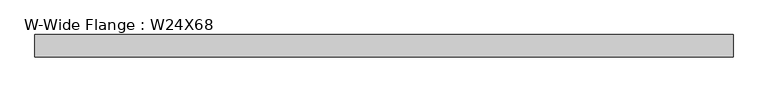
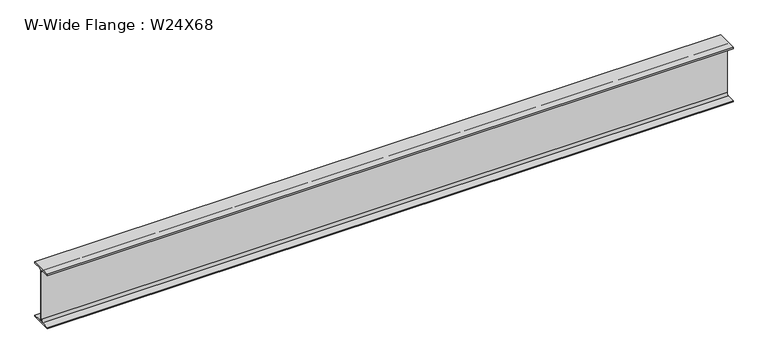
"""IFC4 building model written with IfcOpenShell, lengths in millimetres: beam geometry, W-Wide Flange : W24X68."""

from ifc_helpers import new_model, si_unit, point, frame, frame_2d, origin, place, context, project, spatial, polyline, circle_curve, trimmed, segment, composite_curve, outline, extrude, source, transform, mapped, element, save


def w_wide_flange_w24x68_2037567b(model_context):
    return source(origin(), model_context, "Body", "SweptSolid", [
        extrude(outline(composite_curve([segment(polyline([(113.919, -286.131), (113.919, -300.99), (-113.919, -300.99), (-113.919, -286.131), (-28.5115, -286.131)]), True, "CONTINUOUS"), segment(trimmed(circle_curve(frame_2d((-28.5115, -262.89)), 23.241), [point((-28.5115, -286.131))], [point((-5.2705, -262.89))], True, "CARTESIAN"), True, "CONTINUOUS"), segment(polyline([(-5.2705, -262.89), (-5.2705, 262.89)]), True, "CONTINUOUS"), segment(trimmed(circle_curve(frame_2d((-28.5115, 262.89)), 23.241), [point((-5.2705, 262.89))], [point((-28.5115, 286.131))], True, "CARTESIAN"), True, "CONTINUOUS"), segment(polyline([(-28.5115, 286.131), (-113.919, 286.131), (-113.919, 300.99), (113.919, 300.99), (113.919, 286.131), (28.5115, 286.131)]), True, "CONTINUOUS"), segment(trimmed(circle_curve(frame_2d((28.5115, 262.89)), 23.241), [point((28.5115, 286.131))], [point((5.2705, 262.89))], True, "CARTESIAN"), True, "CONTINUOUS"), segment(polyline([(5.2705, 262.89), (5.2705, -262.89)]), True, "CONTINUOUS"), segment(trimmed(circle_curve(frame_2d((28.5115, -262.89)), 23.241), [point((5.2705, -262.89))], [point((28.5115, -286.131))], True, "CARTESIAN"), True, "CONTINUOUS"), segment(polyline([(28.5115, -286.131), (113.919, -286.131)]), True, "CONTINUOUS")], self_intersect=False)), frame((-3486.15, 0.0, 0.0), z_axis=(1.0, 0.0, 0.0), x_axis=(0.0, 1.0, 0.0)), (0.0, 0.0, 1.0), 7169.531),
    ])


if __name__ == "__main__":
    model = new_model("IFC4")
    model_context = context("Model", 3, world=origin())
    ifc_project = project(units=[si_unit("LENGTHUNIT", "METRE", prefix="MILLI")], contexts=[model_context])
    site = spatial("IfcSite", under=ifc_project)
    building = spatial("IfcBuilding", under=site)
    placement = place(None, origin())
    w_wide_flange_w24x68_shape = w_wide_flange_w24x68_2037567b(model_context)
    element("IfcBeam", 1, ObjectType="W-Wide Flange : W24X68", at=placement, inside=building, context=model_context, shape_type="MappedRepresentation", body=[
        mapped(w_wide_flange_w24x68_shape, transform((0.0, 0.0, 0.0), x_axis=(1.0, 0.0, 0.0), y_axis=(0.0, 1.0, 0.0), z_axis=(0.0, 0.0, 1.0))),
    ])
    save(model, "model.ifc")
